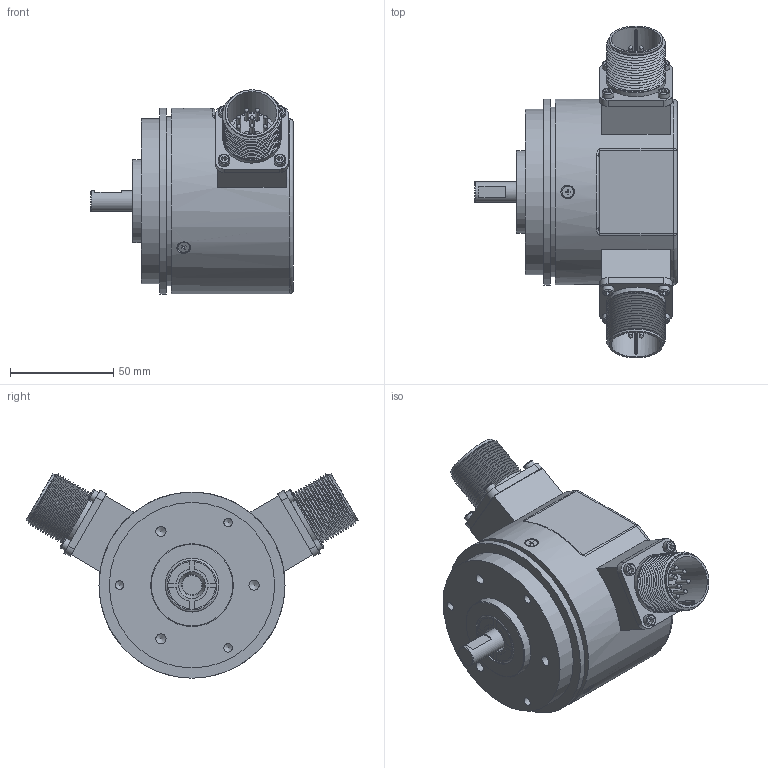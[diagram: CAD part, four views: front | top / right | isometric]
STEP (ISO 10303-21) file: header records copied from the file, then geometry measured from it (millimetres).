
FILE_DESCRIPTION( ( 'Unknown' ), '1' );
FILE_NAME( 'C:/Users/malfermoa/Desktop/step/EH_90A_albero 10.stp', 'Unknown', ( 'Unknown' ), ( 'Unknown' ), 'PSStep 15.0.49', 'Unknown', ' ' );
FILE_SCHEMA( ( 'AUTOMOTIVE_DESIGN { 1 0 10303 214 1 1 1 1 }' ) );
Length unit declared in the file: millimetre
Products named in the file (1): 41890023-oa10
Bounding box: 98 x 160.57 x 98.86 mm (x, y, z)
Volume: 237890 mm3; surface area: 93848.3 mm2
Topology: 1 solids, 16 shells, 1451 faces, 3129 edges, 1789 vertices
Faces by surface type: plane 674, cylinder 469, torus 221, cone 46, sphere 28, bspline 13
Full cylindrical faces by diameter (mm): 2 x40, 2.013 x11, 2.459 x3, 2.6 x20, 3.2 x2, 3.5 x16, 4.134 x3, 4.917 x3, 5.5 x8, 5.6 x3, 10 x10, 13 x3, 13.8 x1, 14 x2, 19 x2, 22 x2, 23.5 x1, 23.9 x2, 24 x1, 25.2 x2, 26 x41, 26.75 x2, 28.4 x2, 29.5 x2, 32 x1, 40 x1, 80 x1, 82 x1, 82.2 x1, 86 x2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
Entity records: 64553 total; most frequent: CARTESIAN_POINT 25417, DIRECTION 6137, ORIENTED_EDGE 5180, AXIS2_PLACEMENT_3D 2648, EDGE_CURVE 2590, EDGE_LOOP 1734, FACE_OUTER_BOUND 1570, VERTEX_POINT 1564
